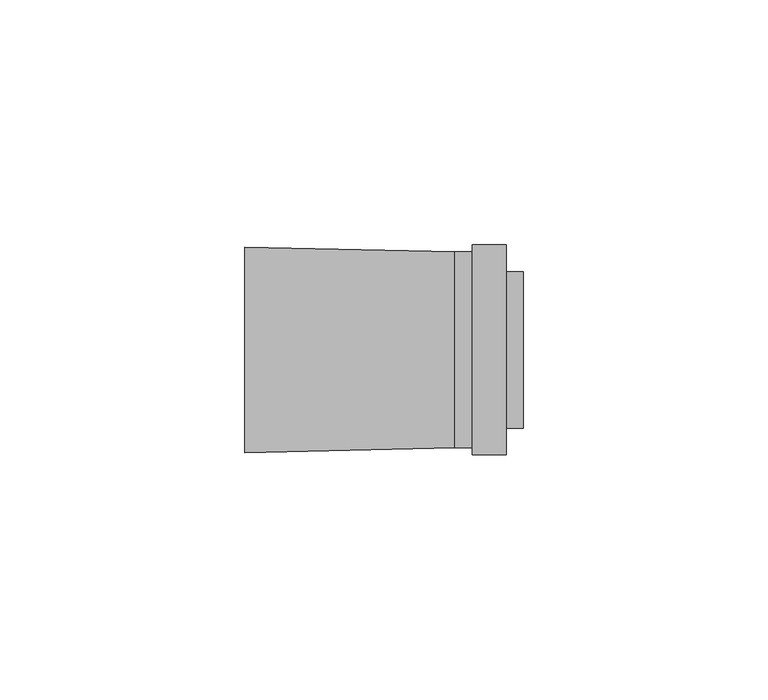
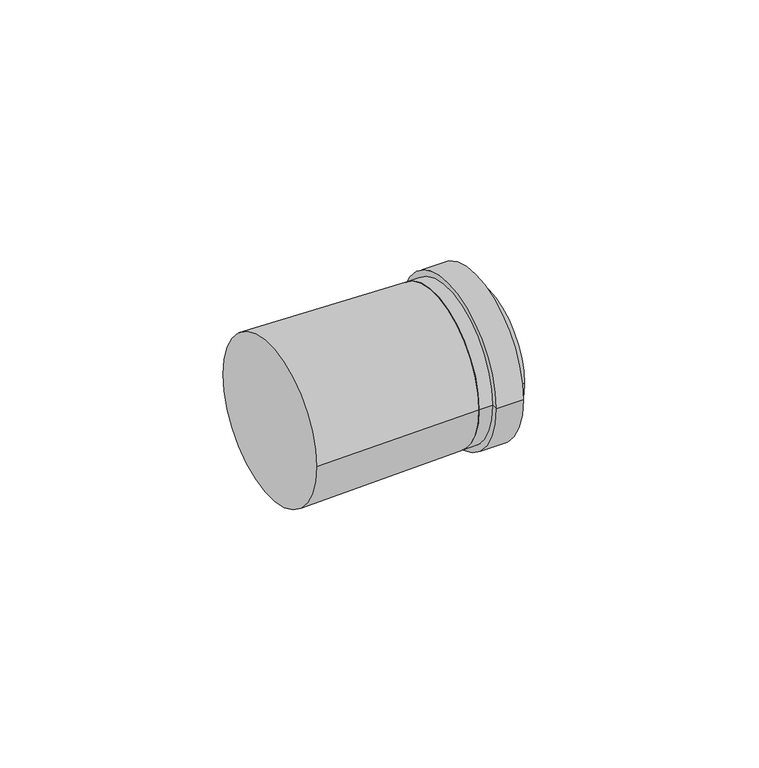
"""IFC4 building model written with IfcOpenShell, lengths in millimetres: cable carrier fitting geometry."""

from ifc_helpers import new_model, si_unit, frame, origin, place, context, project, spatial, polyline, circle_curve, source, transform, mapped, element, save
from ifc_brep_helpers import plane_surface, cylinder_surface, revolved_surface, advanced_brep


def cable_carrier_fitting_49833688(model_context):
    return source(origin(), model_context, "Body", "AdvancedBrep", [
        advanced_brep(
        [(28.5, -16.0, 0.0), (28.5, 16.0, 0.0), (28.5, 0.0, 0.0), (25.0, -16.0, 0.0), (25.0, 16.0, 0.0), (25.0, -21.5, 0.0), (25.0, 21.5, 0.0), (18.0, -21.5, 0.0), (18.0, 21.5, 0.0), (18.0, -20.0, 0.0), (18.0, 20.0, 0.0), (14.5, -20.0, 0.0), (14.5, 20.0, 0.0), (14.5, 0.0, 0.0)],
        [
            (0, 1, circle_curve(frame((28.5, 0.0, 0.0), z_axis=(1.0, 0.0, 0.0), x_axis=(0.0, 1.0, 0.0)), 16.0)),
            (1, 2),
            (2, 0),
            (1, 0, circle_curve(frame((28.5, 0.0, 0.0), z_axis=(1.0, 0.0, 0.0), x_axis=(0.0, 1.0, 0.0)), 16.0)),
            (3, 4, circle_curve(frame((25.0, 0.0, 0.0), z_axis=(1.0, 0.0, 0.0), x_axis=(0.0, 1.0, 0.0)), 16.0)),
            (4, 1),
            (0, 3),
            (4, 3, circle_curve(frame((25.0, 0.0, 0.0), z_axis=(1.0, 0.0, 0.0), x_axis=(0.0, 1.0, 0.0)), 16.0)),
            (5, 6, circle_curve(frame((25.0, 0.0, 0.0), z_axis=(1.0, 0.0, 0.0), x_axis=(0.0, 1.0, 0.0)), 21.5)),
            (6, 4),
            (3, 5),
            (6, 5, circle_curve(frame((25.0, 0.0, 0.0), z_axis=(1.0, 0.0, 0.0), x_axis=(0.0, 1.0, 0.0)), 21.5)),
            (7, 8, circle_curve(frame((18.0, 0.0, 0.0), z_axis=(1.0, 0.0, 0.0), x_axis=(0.0, 1.0, 0.0)), 21.5)),
            (8, 6),
            (5, 7),
            (8, 7, circle_curve(frame((18.0, 0.0, 0.0), z_axis=(1.0, 0.0, 0.0), x_axis=(0.0, 1.0, 0.0)), 21.5)),
            (9, 10, circle_curve(frame((18.0, 0.0, 0.0), z_axis=(1.0, 0.0, 0.0), x_axis=(0.0, 1.0, 0.0)), 20.0)),
            (10, 8),
            (7, 9),
            (10, 9, circle_curve(frame((18.0, 0.0, 0.0), z_axis=(1.0, 0.0, 0.0), x_axis=(0.0, 1.0, 0.0)), 20.0)),
            (11, 12, circle_curve(frame((14.5, 0.0, 0.0), z_axis=(1.0, 0.0, 0.0), x_axis=(0.0, 1.0, 0.0)), 20.0)),
            (12, 10),
            (9, 11),
            (12, 11, circle_curve(frame((14.5, 0.0, 0.0), z_axis=(1.0, 0.0, 0.0), x_axis=(0.0, 1.0, 0.0)), 20.0)),
            (13, 12),
            (11, 13),
        ],
        [
            plane_surface(frame((28.5, 0.0, 0.0), z_axis=(1.0, 0.0, 0.0), x_axis=(0.0, 1.0, 0.0))),
            cylinder_surface(frame((1524.0, 0.0, 0.0), z_axis=(-1.0, 0.0, 0.0), x_axis=(0.0, 1.0, 0.0)), 16.0),
            plane_surface(frame((25.0, 0.0, 0.0), z_axis=(1.0, 0.0, 0.0), x_axis=(0.0, 1.0, 0.0))),
            cylinder_surface(frame((1524.0, 0.0, 0.0), z_axis=(-1.0, 0.0, 0.0), x_axis=(0.0, 1.0, 0.0)), 21.5),
            plane_surface(frame((18.0, 0.0, 0.0), z_axis=(-1.0, 0.0, 0.0), x_axis=(0.0, 1.0, 0.0))),
            cylinder_surface(frame((1524.0, 0.0, 0.0), z_axis=(-1.0, 0.0, 0.0), x_axis=(0.0, 1.0, 0.0)), 20.0),
            plane_surface(frame((14.5, 0.0, 0.0), z_axis=(-1.0, 0.0, 0.0), x_axis=(0.0, 1.0, 0.0))),
        ],
        [
            (0, [[1, 2, 3]]),
            (0, [[4, -3, -2]]),
            (1, [[5, 6, -1, 7]]),
            (1, [[8, -7, -4, -6]]),
            (2, [[9, 10, -5, 11]]),
            (2, [[12, -11, -8, -10]]),
            (3, [[13, 14, -9, 15]]),
            (3, [[16, -15, -12, -14]]),
            (4, [[17, 18, -13, 19]]),
            (4, [[20, -19, -16, -18]]),
            (5, [[21, 22, -17, 23]]),
            (5, [[24, -23, -20, -22]]),
            (6, [[25, -21, 26]]),
            (6, [[-26, -24, -25]]),
        ],
    ),
        advanced_brep(
        [(-28.5, -21.0, 0.0), (-28.5, 21.0, 0.0), (14.5, -20.0, 0.0), (14.5, 20.0, 0.0)],
        [
            (0, 1, circle_curve(frame((-28.5, 0.0, 0.0), z_axis=(-1.0, 0.0, 0.0), x_axis=(0.0, -1.0, 0.0)), 21.0)),
            (1, 0, circle_curve(frame((-28.5, 0.0, 0.0), z_axis=(-1.0, 0.0, 0.0), x_axis=(0.0, 1.0, 0.0)), 21.0)),
            (2, 3, circle_curve(frame((14.5, 0.0, 0.0), z_axis=(1.0, 0.0, 0.0), x_axis=(0.0, 1.0, 0.0)), 20.0)),
            (3, 2, circle_curve(frame((14.5, 0.0, 0.0), z_axis=(1.0, 0.0, 0.0), x_axis=(0.0, -1.0, 0.0)), 20.0)),
            (2, 0),
            (1, 3),
        ],
        [
            plane_surface(frame((-28.5, 0.0, 0.0), z_axis=(-1.0, 0.0, 0.0), x_axis=(0.0, 0.0, -1.0))),
            plane_surface(frame((14.5, 0.0, 0.0), z_axis=(1.0, 0.0, 0.0), x_axis=(0.0, 0.0, -1.0))),
            revolved_surface(polyline([(14.5, -20.0, 0.0), (-28.5, -21.0, 0.0)]), (874.5, 0.0, 0.0), (-1.0, 0.0, 0.0)),
            revolved_surface(polyline([(14.5, 20.0, 0.0), (-28.5, 21.0, 0.0)]), (874.5, 0.0, 0.0), (-1.0, 0.0, 0.0)),
        ],
        [
            (0, [[1, 2]]),
            (1, [[3, 4]]),
            (2, [[-3, 5, -2, 6]]),
            (3, [[-4, -6, -1, -5]]),
        ],
    ),
    ])


if __name__ == "__main__":
    model = new_model("IFC4")
    model_context = context("Model", 3, world=origin())
    ifc_project = project(units=[si_unit("LENGTHUNIT", "METRE", prefix="MILLI")], contexts=[model_context])
    site = spatial("IfcSite", under=ifc_project)
    building = spatial("IfcBuilding", under=site)
    placement = place(None, origin())
    cable_carrier_fitting_shape = cable_carrier_fitting_49833688(model_context)
    element("IfcCableCarrierFitting", 1, at=placement, inside=building, context=model_context, shape_type="MappedRepresentation", body=[
        mapped(cable_carrier_fitting_shape, transform((0.0, 0.0, 0.0), x_axis=(1.0, 0.0, 0.0), y_axis=(0.0, 1.0, 0.0), z_axis=(0.0, 0.0, 1.0))),
    ])
    save(model, "model.ifc")
